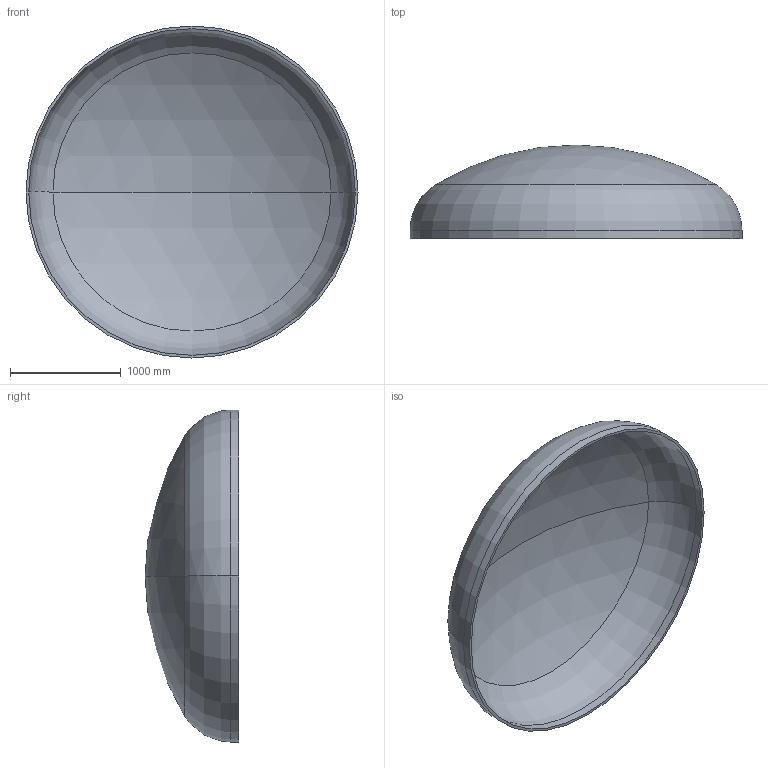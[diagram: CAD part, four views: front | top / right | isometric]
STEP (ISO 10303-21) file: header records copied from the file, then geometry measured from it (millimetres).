
FILE_DESCRIPTION (( 'STEP AP203' ), '1' );
FILE_NAME ('DIN 28013 Korbbogenform_-_Boden DIN 28013 - 3000 x 75 - I - s=24.step', '2016-07-01T17:36:32', ( '' ), ( '' ), 'SwSTEP 2.0', 'SolidWorks 2013', '' );
FILE_SCHEMA (( 'CONFIG_CONTROL_DESIGN' ));
Length unit declared in the file: millimetre
Products named in the file (1): DIN 28013 Korbbogenform_-_Boden DIN 28013 - 3000 x 75 - I - s=24
Bounding box: 3000 x 846.32 x 3000 mm (x, y, z)
Volume: 249118288.5 mm3; surface area: 20985441 mm2
Topology: 1 solids, 1 shells, 13 faces, 24 edges, 14 vertices
Faces by surface type: torus 4, cylinder 4, sphere 4, plane 1
Entity records: 407 total; most frequent: DIRECTION 72, CARTESIAN_POINT 52, ORIENTED_EDGE 48, AXIS2_PLACEMENT_3D 34, EDGE_CURVE 24, CIRCLE 20, VERTEX_POINT 14, EDGE_LOOP 14
